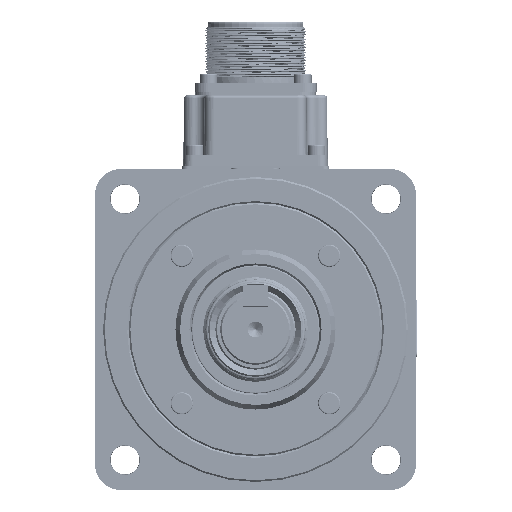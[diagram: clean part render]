
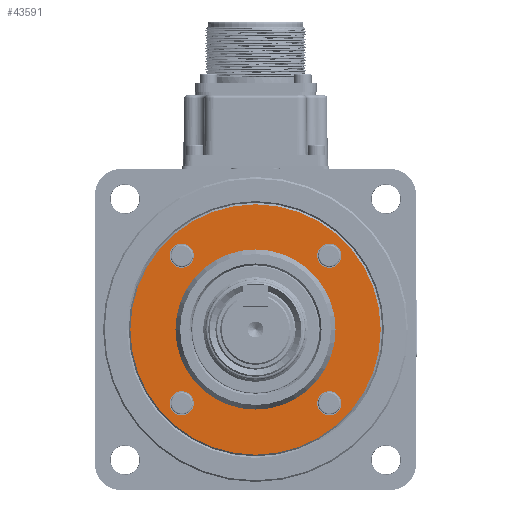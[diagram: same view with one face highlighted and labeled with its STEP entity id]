
A CAD part, left-side view. The second image highlights one B-rep face of the part: STEP entity #43591.
In plain terms, the highlighted planar face has unit normal (-1, 0, 0) as drawn and (0, -1, 0) by its records, which use the part's own axes.
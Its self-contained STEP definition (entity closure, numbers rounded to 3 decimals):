
#10249=PLANE('',#47689);
#21237=ORIENTED_EDGE('',*,*,#27430,.T.);
#21238=ORIENTED_EDGE('',*,*,#27431,.T.);
#21239=ORIENTED_EDGE('',*,*,#27432,.T.);
#21240=ORIENTED_EDGE('',*,*,#27433,.T.);
#21241=ORIENTED_EDGE('',*,*,#27434,.T.);
#21242=ORIENTED_EDGE('',*,*,#27429,.F.);
#27429=EDGE_CURVE('',#31627,#31627,#33314,.T.);
#27430=EDGE_CURVE('',#31628,#31628,#33315,.T.);
#27431=EDGE_CURVE('',#31629,#31629,#33316,.F.);
#27432=EDGE_CURVE('',#31630,#31630,#33317,.F.);
#27433=EDGE_CURVE('',#31631,#31631,#33318,.F.);
#27434=EDGE_CURVE('',#31632,#31632,#33319,.F.);
#31627=VERTEX_POINT('',#91711);
#31628=VERTEX_POINT('',#91714);
#31629=VERTEX_POINT('',#91716);
#31630=VERTEX_POINT('',#91718);
#31631=VERTEX_POINT('',#91720);
#31632=VERTEX_POINT('',#91722);
#33314=CIRCLE('',#47688,24.943);
#33315=CIRCLE('',#47690,39.);
#33316=CIRCLE('',#47691,3.75);
#33317=CIRCLE('',#47692,3.75);
#33318=CIRCLE('',#47693,3.75);
#33319=CIRCLE('',#47694,3.75);
#36688=EDGE_LOOP('',(#21237));
#36689=EDGE_LOOP('',(#21238));
#36690=EDGE_LOOP('',(#21239));
#36691=EDGE_LOOP('',(#21240));
#36692=EDGE_LOOP('',(#21241));
#36693=EDGE_LOOP('',(#21242));
#40262=FACE_BOUND('',#36688,.T.);
#40263=FACE_BOUND('',#36689,.T.);
#40264=FACE_BOUND('',#36690,.T.);
#40265=FACE_BOUND('',#36691,.T.);
#40266=FACE_BOUND('',#36692,.T.);
#40267=FACE_BOUND('',#36693,.T.);
#43591=ADVANCED_FACE('',(#40262,#40263,#40264,#40265,#40266,#40267),#10249,
 .T.);
#47688=AXIS2_PLACEMENT_3D('',#91710,#58690,#58691);
#47689=AXIS2_PLACEMENT_3D('',#91712,#58692,#58693);
#47690=AXIS2_PLACEMENT_3D('',#91713,#58694,#58695);
#47691=AXIS2_PLACEMENT_3D('',#91715,#58696,#58697);
#47692=AXIS2_PLACEMENT_3D('',#91717,#58698,#58699);
#47693=AXIS2_PLACEMENT_3D('',#91719,#58700,#58701);
#47694=AXIS2_PLACEMENT_3D('',#91721,#58702,#58703);
#58690=DIRECTION('',(0.,-1.,0.));
#58691=DIRECTION('',(0.,0.,-1.));
#58692=DIRECTION('',(0.,-1.,0.));
#58693=DIRECTION('',(0.,0.,-1.));
#58694=DIRECTION('',(0.,-1.,0.));
#58695=DIRECTION('',(0.,0.,-1.));
#58696=DIRECTION('',(0.,-1.,0.));
#58697=DIRECTION('',(0.,0.,-1.));
#58698=DIRECTION('',(0.,-1.,0.));
#58699=DIRECTION('',(0.,0.,-1.));
#58700=DIRECTION('',(0.,-1.,0.));
#58701=DIRECTION('',(0.,0.,-1.));
#58702=DIRECTION('',(0.,-1.,0.));
#58703=DIRECTION('',(0.,0.,-1.));
#91710=CARTESIAN_POINT('',(0.,0.5,0.));
#91711=CARTESIAN_POINT('',(0.,0.5,-24.943));
#91712=CARTESIAN_POINT('',(0.,0.5,39.5));
#91713=CARTESIAN_POINT('',(0.,0.5,0.));
#91714=CARTESIAN_POINT('',(0.,0.5,-39.));
#91715=CARTESIAN_POINT('',(-22.981,0.5,22.981));
#91716=CARTESIAN_POINT('',(-22.981,0.5,19.231));
#91717=CARTESIAN_POINT('',(22.981,0.5,22.981));
#91718=CARTESIAN_POINT('',(22.981,0.5,19.231));
#91719=CARTESIAN_POINT('',(22.981,0.5,-22.981));
#91720=CARTESIAN_POINT('',(22.981,0.5,-26.731));
#91721=CARTESIAN_POINT('',(-22.981,0.5,-22.981));
#91722=CARTESIAN_POINT('',(-22.981,0.5,-26.731));
